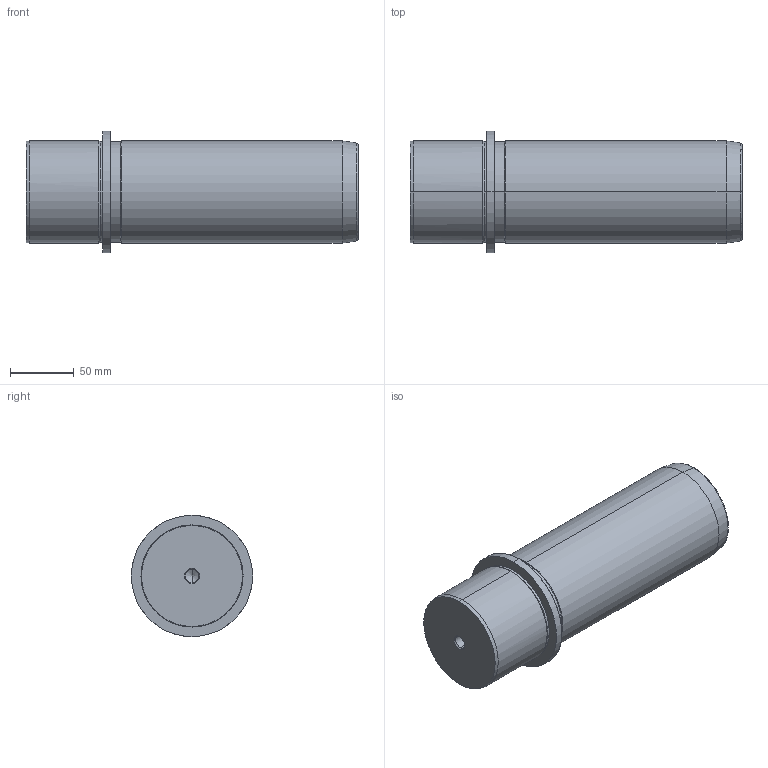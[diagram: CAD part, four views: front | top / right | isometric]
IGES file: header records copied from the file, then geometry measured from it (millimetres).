
Start section: START RECORD GO HERE.
Global section: file name: 718-80x200.igs; native system: DASSAULT SYSTEMES CATIA V5 R20 - www.3ds.com; preprocessor: CATIA Version 5 Release 20 ; author: Utente; organization: NB04-ASUS; date: 20210102.083844; units: millimetre
Bounding box: 260 x 95 x 95 mm (x, y, z)
Surface area: 80974.7 mm2 (no closed solid volume)
Topology: 0 solids, 0 shells, 36 faces, 220 edges, 216 vertices
Faces by surface type: revolution 32, plane 4
